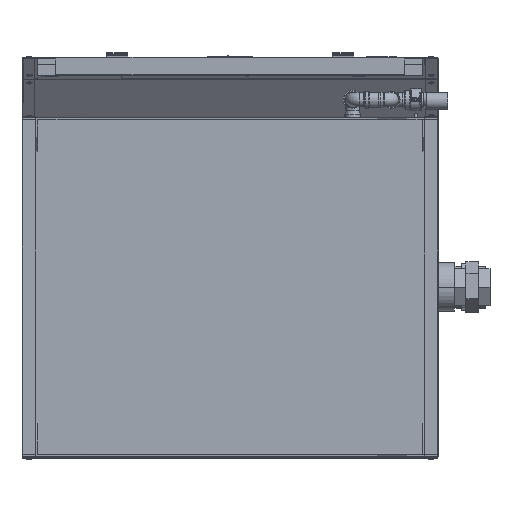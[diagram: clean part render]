
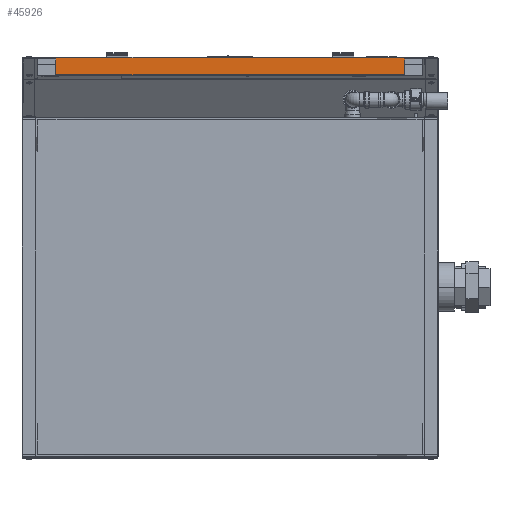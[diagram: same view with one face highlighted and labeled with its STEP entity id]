
A CAD part, front view. The second image highlights one B-rep face of the part: STEP entity #45926.
In plain terms, the highlighted planar face has unit normal (0, -1, 0).
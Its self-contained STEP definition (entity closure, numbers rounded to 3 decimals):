
#3391 = DIRECTION ( 'NONE',  ( -1., 0., 0. ) ) ;
#6405 = CARTESIAN_POINT ( 'NONE',  ( 302., 146., 594.55 ) ) ;
#7789 = FACE_OUTER_BOUND ( 'NONE', #34584, .T. ) ;
#11624 = AXIS2_PLACEMENT_3D ( 'NONE', #27192, #21515, #15061 ) ;
#13947 = ORIENTED_EDGE ( 'NONE', *, *, #68923, .F. ) ;
#15061 = DIRECTION ( 'NONE',  ( -1., 0., 0. ) ) ;
#15680 = LINE ( 'NONE', #41105, #42221 ) ;
#17118 = CARTESIAN_POINT ( 'NONE',  ( -522., 146., 634.45 ) ) ;
#19201 = LINE ( 'NONE', #23670, #48828 ) ;
#21515 = DIRECTION ( 'NONE',  ( 0., -1., 0. ) ) ;
#21732 = DIRECTION ( 'NONE',  ( -1., 0., 0. ) ) ;
#23670 = CARTESIAN_POINT ( 'NONE',  ( 302., 146., 594.55 ) ) ;
#26237 = CARTESIAN_POINT ( 'NONE',  ( -522., 146., 594.55 ) ) ;
#27192 = CARTESIAN_POINT ( 'NONE',  ( 380.5, 146., 594.55 ) ) ;
#28592 = ORIENTED_EDGE ( 'NONE', *, *, #42342, .T. ) ;
#32053 = DIRECTION ( 'NONE',  ( 0., 0., -1. ) ) ;
#32687 = ORIENTED_EDGE ( 'NONE', *, *, #48031, .T. ) ;
#32848 = CARTESIAN_POINT ( 'NONE',  ( -522., 146., 594.55 ) ) ;
#34584 = EDGE_LOOP ( 'NONE', ( #32687, #28592, #13947, #40177 ) ) ;
#40177 = ORIENTED_EDGE ( 'NONE', *, *, #72103, .T. ) ;
#41105 = CARTESIAN_POINT ( 'NONE',  ( 380.5, 146., 594.55 ) ) ;
#42221 = VECTOR ( 'NONE', #21732, 1000. ) ;
#42342 = EDGE_CURVE ( 'NONE', #69069, #58536, #45784, .T. ) ;
#43503 = VECTOR ( 'NONE', #32053, 1000. ) ;
#43855 = DIRECTION ( 'NONE',  ( 0., 0., 1. ) ) ;
#45784 = LINE ( 'NONE', #32848, #43503 ) ;
#45926 = ADVANCED_FACE ( 'NONE', ( #7789 ), #63230, .T. ) ;
#48031 = EDGE_CURVE ( 'NONE', #56974, #69069, #65670, .T. ) ;
#48828 = VECTOR ( 'NONE', #43855, 1000. ) ;
#52741 = CARTESIAN_POINT ( 'NONE',  ( 380.5, 146., 634.45 ) ) ;
#56974 = VERTEX_POINT ( 'NONE', #68140 ) ;
#58536 = VERTEX_POINT ( 'NONE', #26237 ) ;
#63230 = PLANE ( 'NONE',  #11624 ) ;
#64809 = VECTOR ( 'NONE', #3391, 1000. ) ;
#65670 = LINE ( 'NONE', #52741, #64809 ) ;
#68140 = CARTESIAN_POINT ( 'NONE',  ( 302., 146., 634.45 ) ) ;
#68923 = EDGE_CURVE ( 'NONE', #77462, #58536, #15680, .T. ) ;
#69069 = VERTEX_POINT ( 'NONE', #17118 ) ;
#72103 = EDGE_CURVE ( 'NONE', #77462, #56974, #19201, .T. ) ;
#77462 = VERTEX_POINT ( 'NONE', #6405 ) ;
